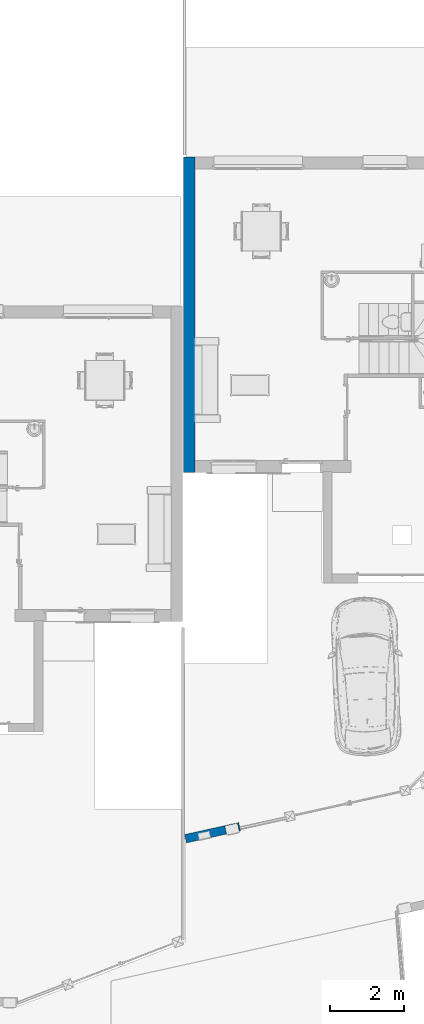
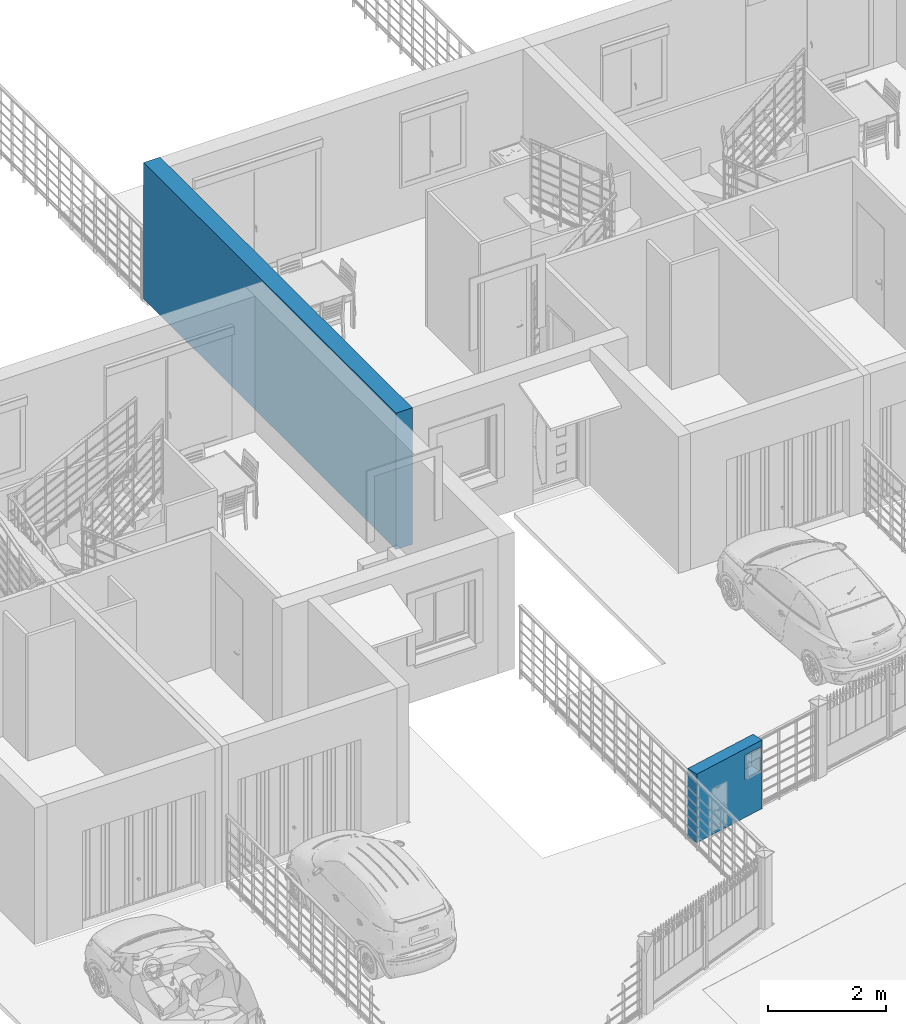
# One storey, part 13 of 33: 2 walls, 1 opening.
"""IFC2X3 building model written with IfcOpenShell, lengths in metres."""

from ifc_helpers import new_model, entity, si_unit, converted_unit, derived_unit, direction, frame, frame_2d, origin, place, context, subcontext, project, spatial, rectangle, extrude, material, layer, layer_set, layer_usage, type_object, element, save


model = new_model("IFC2X3")

# Units and contexts
model_context = context("Model", 3, precision=1e-05, world=origin(), true_north=direction((6.12303176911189e-17, 1.0)))
context_of_model = context(None, 3, precision=1e-05, world=origin(), true_north=direction((6.12303176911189e-17, 1.0)))
body_context = subcontext(model_context, "Body", "Model", "MODEL_VIEW")
ifc_project = project(units=[si_unit("LENGTHUNIT", "METRE"), si_unit("AREAUNIT", "SQUARE_METRE"), si_unit("VOLUMEUNIT", "CUBIC_METRE"), converted_unit("PLANEANGLEUNIT", "DEGREE", entity("IfcRatioMeasure", 0.0174532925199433), si_unit("PLANEANGLEUNIT", "RADIAN"), dimensions=[0, 0, 0, 0, 0, 0, 0]), si_unit("MASSUNIT", "GRAM", prefix="KILO"), si_unit("TIMEUNIT", "SECOND"), si_unit("FREQUENCYUNIT", "HERTZ"), si_unit("THERMODYNAMICTEMPERATUREUNIT", "DEGREE_CELSIUS"), derived_unit("THERMALTRANSMITTANCEUNIT", [(si_unit("MASSUNIT", "GRAM", prefix="KILO"), 1), (si_unit("THERMODYNAMICTEMPERATUREUNIT", "KELVIN"), -1), (si_unit("TIMEUNIT", "SECOND"), -3)]), derived_unit("VOLUMETRICFLOWRATEUNIT", [(si_unit("LENGTHUNIT", "METRE"), 3), (si_unit("TIMEUNIT", "SECOND"), -1)]), si_unit("ELECTRICCURRENTUNIT", "AMPERE"), si_unit("ELECTRICVOLTAGEUNIT", "VOLT"), si_unit("POWERUNIT", "WATT"), si_unit("FORCEUNIT", "NEWTON", prefix="KILO"), si_unit("ILLUMINANCEUNIT", "LUX"), si_unit("LUMINOUSFLUXUNIT", "LUMEN"), si_unit("LUMINOUSINTENSITYUNIT", "CANDELA"), si_unit("PRESSUREUNIT", "PASCAL")], contexts=[model_context, context_of_model])

# Site, building, storey
site_placement = place(None, origin())
site = spatial("IfcSite", under=ifc_project, at=site_placement, Name="Surface", CompositionType="ELEMENT")
building_placement = place(site_placement, origin())
building = spatial("IfcBuilding", under=site, at=building_placement, CompositionType="ELEMENT")
storey_placement = place(building_placement, origin())
storey = spatial("IfcBuildingStorey", under=building, at=storey_placement, Name="Plan des fondations  Maisons 1 et 2", CompositionType="ELEMENT", Elevation=0.0)

# Wall
ifc_material_1 = material(Name="Enduit blanc cassé2")
ifc_layer_1 = layer(ifc_material_1, 0.02)
ifc_material_2 = material(Name="Parpaing")
ifc_layer_2 = layer(ifc_material_2, 0.2)
ifc_material_3 = material(Name="Isolant")
ifc_layer_3 = layer(ifc_material_3, 0.1)
ifc_layer_set_1 = layer_set([ifc_layer_1, ifc_layer_2, ifc_layer_3], Name="Mur de base:Ext. Parpaing 20 + Isolant 10 enduit blanc cassé")
ifc_layer_usage_1 = layer_usage(ifc_layer_set_1, "AXIS2", "NEGATIVE", 0.16)
wall_type_1 = type_object("IfcWallType", Name="Mur de base:Ext. Parpaing 20 + Isolant 10 enduit blanc cassé", PredefinedType="STANDARD", material=ifc_layer_set_1)
wall_1_placement = place(storey_placement, frame((76.462756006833, 83.9275239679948, 0.0), z_axis=(0.0, 0.0, 1.0), x_axis=(0.0, 1.0, 0.0)))
element("IfcWallStandardCase", 1, at=wall_1_placement, inside=storey, type_object=wall_type_1, material=ifc_layer_usage_1, Name="Mur de base:Ext. Parpaing 20 + Isolant 10 enduit blanc cassé", ObjectType="Mur de base:Ext. Parpaing 20 + Isolant 10 enduit blanc cassé", context=body_context, shape_type="SweptSolid", body=[
    extrude(rectangle(XDim=8.54, YDim=0.319999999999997, at=frame_2d((4.27, -9.85322934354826e-16), x_axis=(-1.0, 0.0))), origin(), (0.0, 0.0, 1.0), 2.82),
])

# Wall, opening
ifc_layer_4 = layer(ifc_material_1, 0.015)
ifc_layer_5 = layer(ifc_material_2, 0.2)
ifc_layer_6 = layer(ifc_material_1, 0.015)
ifc_layer_set_2 = layer_set([ifc_layer_4, ifc_layer_5, ifc_layer_6], Name="Mur de base:Ext. Parpaing 20 + 2 x 1.5")
ifc_layer_usage_2 = layer_usage(ifc_layer_set_2, "AXIS2", "NEGATIVE", 0.115)
wall_type_2 = type_object("IfcWallType", Name="Mur de base:Ext. Parpaing 20 + 2 x 1.5", PredefinedType="STANDARD", material=ifc_layer_set_2)
wall_2_placement = place(building_placement, frame((76.3624629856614, 74.0005027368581, 0.0), z_axis=(0.0, 0.0, 1.0), x_axis=(0.976296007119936, 0.216439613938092, 0.0)))
wall_2 = element("IfcWallStandardCase", 2, at=wall_2_placement, inside=storey, type_object=wall_type_2, material=ifc_layer_usage_2, Name="Mur de base:Ext. Parpaing 20 + 2 x 1.5", ObjectType="Mur de base:Ext. Parpaing 20 + 2 x 1.5", context=body_context, shape_type="SweptSolid", body=[
    extrude(rectangle(XDim=1.50000000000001, YDim=0.229999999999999, at=frame_2d((0.750000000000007, -1.41553435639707e-15), x_axis=(-1.0, 0.0))), origin(), (0.0, 0.0, 1.0), 1.41792877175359),
])
opening_placement = place(wall_2_placement, origin())
element("IfcOpeningElement", 3, at=opening_placement, cuts=wall_2, Name="Mur de base:Ext. Parpaing 20 + 2 x 1.5", ObjectType="Recess", context=body_context, shape_type="SweptSolid", body=[
    extrude(rectangle(XDim=0.500000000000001, YDim=0.350000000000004, at=frame_2d((0.0, 9.29811783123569e-16), x_axis=(1.0, 0.0))), frame((1.285, -0.115000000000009, 1.03740197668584), z_axis=(0.0, 1.0, 0.0), x_axis=(0.0, 0.0, -1.0)), (0.0, 0.0, 1.0), 0.220000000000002),
])

save(model, "model.ifc")
